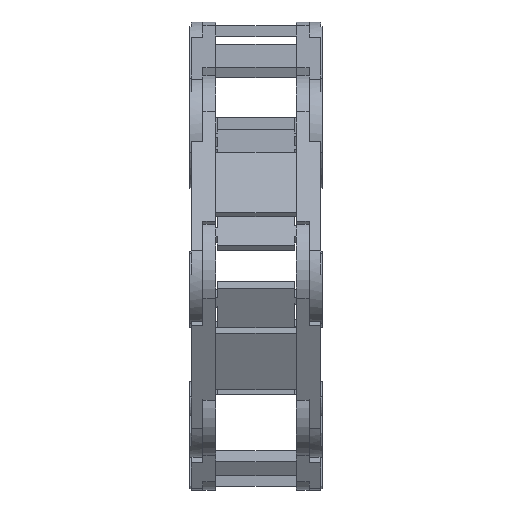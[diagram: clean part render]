
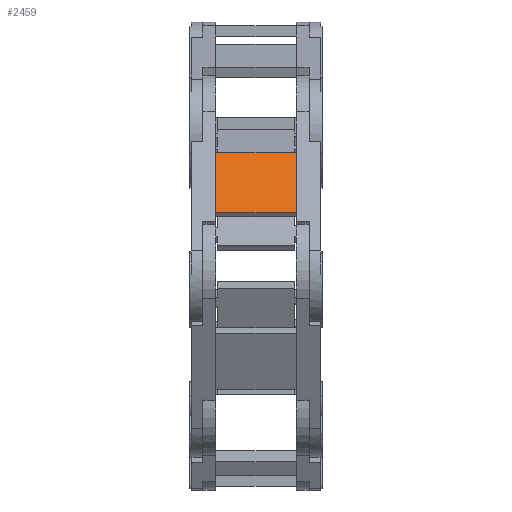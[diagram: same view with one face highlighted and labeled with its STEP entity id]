
A CAD part, left-side view. The second image highlights one B-rep face of the part: STEP entity #2459.
In plain terms, the highlighted planar face has unit normal (-0.936, 0, 0.351).
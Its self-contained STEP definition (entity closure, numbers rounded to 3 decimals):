
#2459=ADVANCED_FACE('',(#5054),#5055,.F.);
#5054=FACE_OUTER_BOUND('',#7797,.T.);
#5055=PLANE('',#7798);
#7797=EDGE_LOOP('',(#15132,#15133,#15134,#15135));
#7798=AXIS2_PLACEMENT_3D('',#15136,#15137,#15138);
#15132=ORIENTED_EDGE('',*,*,#19173,.T.);
#15133=ORIENTED_EDGE('',*,*,#19305,.F.);
#15134=ORIENTED_EDGE('',*,*,#19303,.F.);
#15135=ORIENTED_EDGE('',*,*,#19299,.T.);
#15136=CARTESIAN_POINT('',(-212.365,12.498,77.706));
#15137=DIRECTION('',(0.936,0.0,-0.351));
#15138=DIRECTION('',(0.0,1.0,0.0));
#19173=EDGE_CURVE('',#23741,#23742,#23743,.T.);
#19299=EDGE_CURVE('',#23917,#23741,#23918,.T.);
#19303=EDGE_CURVE('',#23917,#23921,#23923,.T.);
#19305=EDGE_CURVE('',#23921,#23742,#23925,.T.);
#23741=VERTEX_POINT('',#30182);
#23742=VERTEX_POINT('',#30183);
#23743=LINE('',#30184,#30185);
#23917=VERTEX_POINT('',#30430);
#23918=LINE('',#30431,#30432);
#23921=VERTEX_POINT('',#30436);
#23923=LINE('',#30439,#30440);
#23925=LINE('',#30442,#30443);
#30182=CARTESIAN_POINT('',(-215.877,0.,68.343));
#30183=CARTESIAN_POINT('',(-208.853,0.,87.069));
#30184=CARTESIAN_POINT('',(-212.365,0.,77.706));
#30185=VECTOR('',#34210,1.0);
#30430=CARTESIAN_POINT('',(-215.877,24.997,68.343));
#30431=CARTESIAN_POINT('',(-215.877,12.498,68.343));
#30432=VECTOR('',#34330,1.0);
#30436=CARTESIAN_POINT('',(-208.853,24.997,87.069));
#30439=CARTESIAN_POINT('',(-212.365,24.997,77.706));
#30440=VECTOR('',#34333,1.0);
#30442=CARTESIAN_POINT('',(-208.853,12.498,87.069));
#30443=VECTOR('',#34334,1.0);
#34210=DIRECTION('',(0.351,-0.0,0.936));
#34330=DIRECTION('',(0.0,-1.0,0.0));
#34333=DIRECTION('',(0.351,0.0,0.936));
#34334=DIRECTION('',(0.0,-1.0,0.0));
